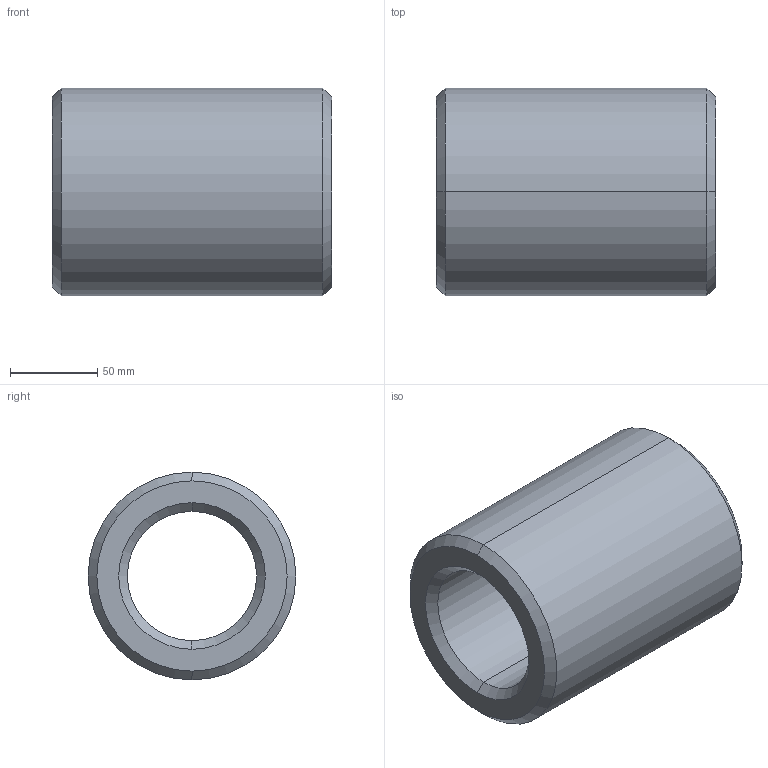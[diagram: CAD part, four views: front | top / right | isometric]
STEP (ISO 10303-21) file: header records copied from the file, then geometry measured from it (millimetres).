
FILE_DESCRIPTION (( 'STEP AP203' ), '1' );
FILE_NAME ('Muffe M76.STEP', '2018-02-22T09:28:56', ( 'install' ), ( 'Hewlett-Packard Company' ), 'SwSTEP 2.0', 'SolidWorks 2017', '' );
FILE_SCHEMA (( 'CONFIG_CONTROL_DESIGN' ));
Length unit declared in the file: millimetre
Products named in the file (1): Muffe M76
Bounding box: 160 x 119 x 119 mm (x, y, z)
Volume: 1076231.1 mm3; surface area: 107103 mm2
Topology: 1 solids, 1 shells, 14 faces, 28 edges, 16 vertices
Faces by surface type: cone 8, cylinder 4, plane 2
Entity records: 445 total; most frequent: DIRECTION 74, CARTESIAN_POINT 59, ORIENTED_EDGE 56, AXIS2_PLACEMENT_3D 31, EDGE_CURVE 28, CIRCLE 16, EDGE_LOOP 16, VERTEX_POINT 16
